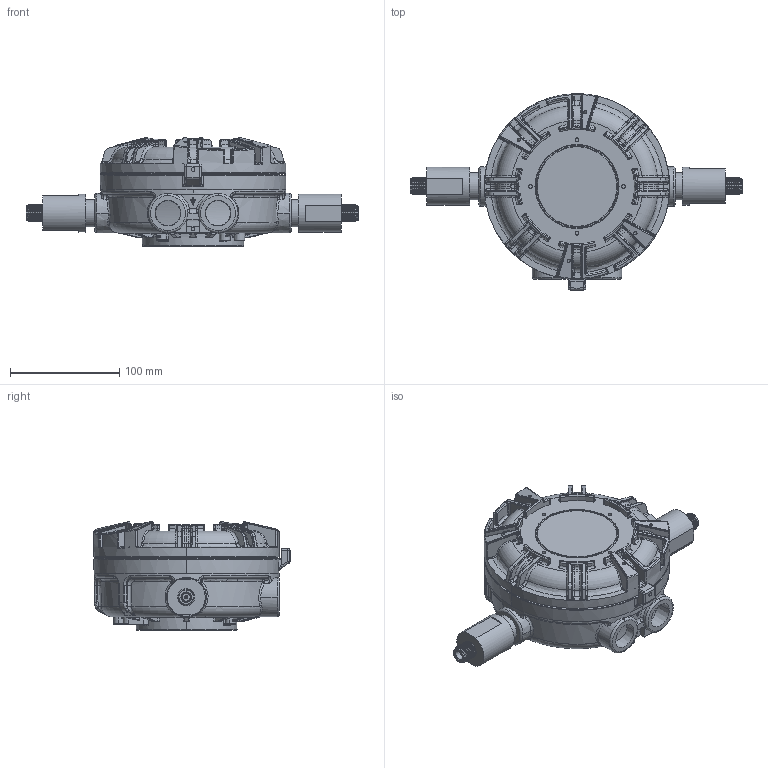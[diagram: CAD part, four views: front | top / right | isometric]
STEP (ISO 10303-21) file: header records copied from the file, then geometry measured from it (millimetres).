
FILE_DESCRIPTION(('FreeCAD Model'),'2;1');
FILE_NAME('Y:/SolexyUS-data/Solexy-public/Publ_Sales/04-stp dwg files/STP/WA_2Coupler.step','2020-02-28T16:05:16',('Author'),(''), 'Open CASCADE STEP processor 7.3','FreeCAD','Unknown');
FILE_SCHEMA(('AUTOMOTIVE_DESIGN { 1 0 10303 214 1 1 1 1 }'));
Products named in the file (1): Fusion002
Bounding box: 304.14 x 179.97 x 99.72 mm (x, y, z)
Volume: 1751027.2 mm3; surface area: 164455.9 mm2
Topology: 1 solids, 60 shells, 2663 faces, 6802 edges, 4107 vertices
Faces by surface type: cylinder 799, bspline 645, plane 552, torus 261, cone 252, sphere 154
Full cylindrical faces by diameter (mm): 1.72 x2, 3 x2, 5.309 x2, 7.1 x2, 13.2 x2, 13.8 x2, 14.732 x14, 15.67 x2, 17.394 x2, 17.462 x4, 24.994 x2, 34.925 x2, 154 x1
Entity records: 343757 total; most frequent: CARTESIAN_POINT 265382, ORIENTED_EDGE 13242, DIRECTION 11588, EDGE_CURVE 6621, AXIS2_PLACEMENT_3D 4944, VERTEX_POINT 4107, FACE_BOUND 2736, EDGE_LOOP 2736
